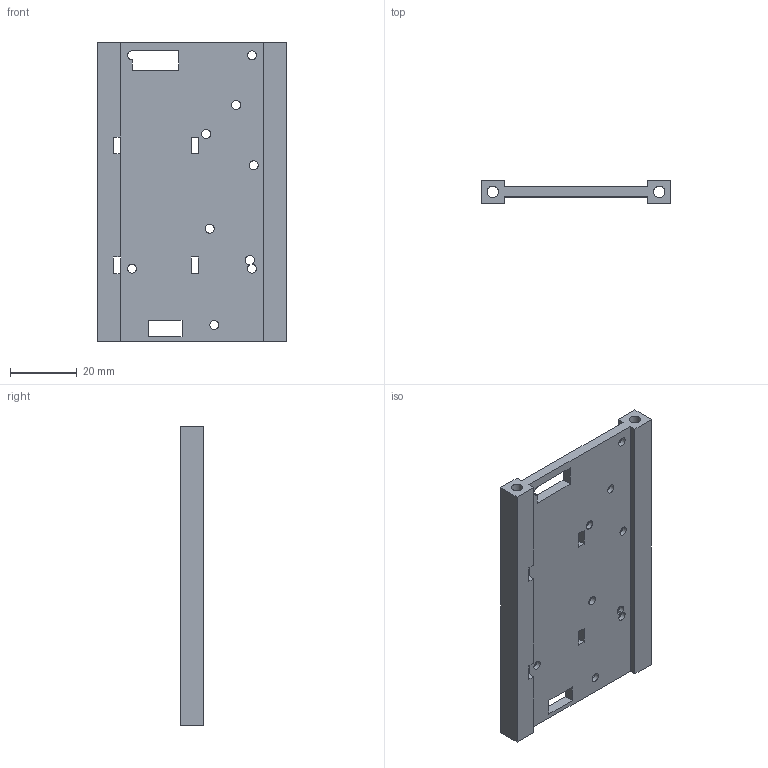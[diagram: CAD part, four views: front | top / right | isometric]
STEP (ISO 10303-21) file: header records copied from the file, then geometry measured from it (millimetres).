
FILE_DESCRIPTION(('Open CASCADE Model'),'2;1');
FILE_NAME('Open CASCADE Shape Model','2026-10-24T16:14:25',('Author'),( 'Open CASCADE'),'Open CASCADE STEP processor 7.9','Open CASCADE 7.9' ,'Unknown');
FILE_SCHEMA(('AUTOMOTIVE_DESIGN { 1 0 10303 214 1 1 1 1 }'));
Length unit declared in the file: millimetre
Products named in the file (1): Open CASCADE STEP translator 7.9 5
Bounding box: 57 x 7 x 90 mm (x, y, z)
Volume: 18018.6 mm3; surface area: 14720.2 mm2
Topology: 1 solids, 1 shells, 71 faces, 220 edges, 143 vertices
Faces by surface type: plane 45, cylinder 26
Full cylindrical faces by diameter (mm): 2.7 x14, 3.4 x2
Entity records: 5268 total; most frequent: CARTESIAN_POINT 1163, DIRECTION 664, ORIENTED_EDGE 440, PCURVE 440, DEFINITIONAL_REPRESENTATION 440, LINE 408, VECTOR 408, EDGE_CURVE 220
